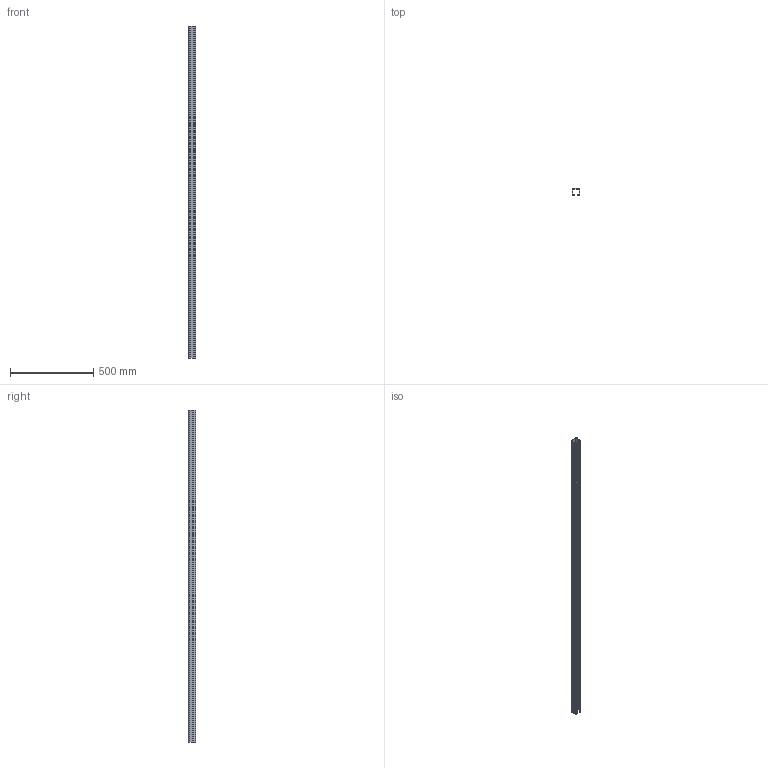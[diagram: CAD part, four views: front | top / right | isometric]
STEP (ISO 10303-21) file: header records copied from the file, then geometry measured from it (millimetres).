
FILE_DESCRIPTION(/* description */ ('Profilrohr Nr.2 - 2m'),/* implementation_level */ '2;1');
FILE_NAME(/* name */ 'Q:\sge-ma\Produktmanagement-STB\STB\Workspace\TraceParts\Laufrohr\011337022.stp',/* time_stamp */ '2018-11-14T15:44:00+01:00',/* author */ ('avschreier'),/* organization */ (''),/* preprocessor_version */ 'ST-DEVELOPER v16.5',/* originating_system */ 'Autodesk Inventor 2017',/* authorisation */ '');
FILE_SCHEMA (('AUTOMOTIVE_DESIGN { 1 0 10303 214 3 1 1 }'));
Length unit declared in the file: millimetre
Products named in the file (1): 011337022
Bounding box: 48 x 43 x 2000 mm (x, y, z)
Volume: 882114.2 mm3; surface area: 565004.1 mm2
Topology: 1 solids, 1 shells, 35 faces, 96 edges, 64 vertices
Faces by surface type: plane 23, cylinder 12
Entity records: 1144 total; most frequent: CARTESIAN_POINT 196, ORIENTED_EDGE 192, DIRECTION 192, EDGE_CURVE 96, LINE 72, VECTOR 72, VERTEX_POINT 64, AXIS2_PLACEMENT_3D 60
